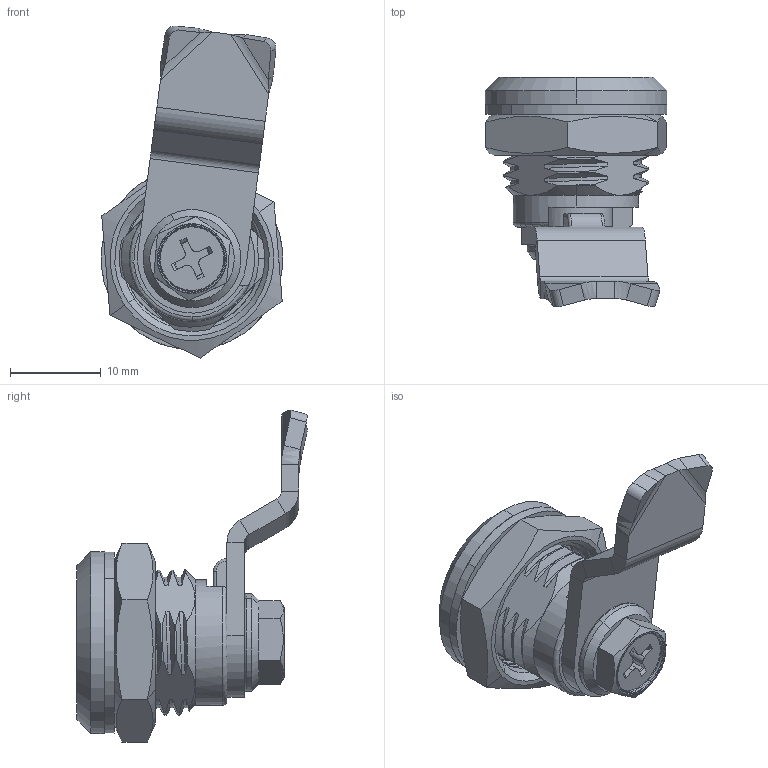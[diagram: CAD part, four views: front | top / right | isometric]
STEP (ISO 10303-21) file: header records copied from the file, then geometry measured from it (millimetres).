
FILE_DESCRIPTION (( 'STEP AP214' ), '1' );
FILE_NAME ('CUYUE.D1-1414-3.STEP', '2026-06-16T09:30:09', ( '' ), ( '' ), 'SwSTEP 2.0', 'SolidWorks 2020', '' );
FILE_SCHEMA (( 'AUTOMOTIVE_DESIGN' ));
Length unit declared in the file: millimetre
Products named in the file (9): M16X1蹟譫; D1-1414坶褲; 耳12X耳8.4X2X0.3疏恇菜え; D1-1414-3坶郋; M5X8蹟隊; 砎蝶菜20x16x14x1.1; CUYUE.D1-1414-3; 坶え; 1.9x12密封圈
Assembly tree (8 placements, depth 2):
  CUYUE.D1-1414-3
    1.9x12密封圈
    耳12X耳8.4X2X0.3疏恇菜え
    坶え
    砎蝶菜20x16x14x1.1
    M16X1蹟譫
    M5X8蹟隊
    D1-1414坶褲
    D1-1414-3坶郋
Bounding box: 20 x 25.32 x 36.52 mm (x, y, z)
Volume: 4087 mm3; surface area: 5665.8 mm2
Topology: 8 solids, 8 shells, 386 faces, 993 edges, 625 vertices
Faces by surface type: cylinder 124, plane 123, bspline 82, cone 37, torus 18, sphere 2
Entity records: 31422 total; most frequent: CARTESIAN_POINT 22288, ORIENTED_EDGE 1978, DIRECTION 1362, EDGE_CURVE 989, VERTEX_POINT 625, AXIS2_PLACEMENT_3D 494, EDGE_LOOP 404, FACE_OUTER_BOUND 386
